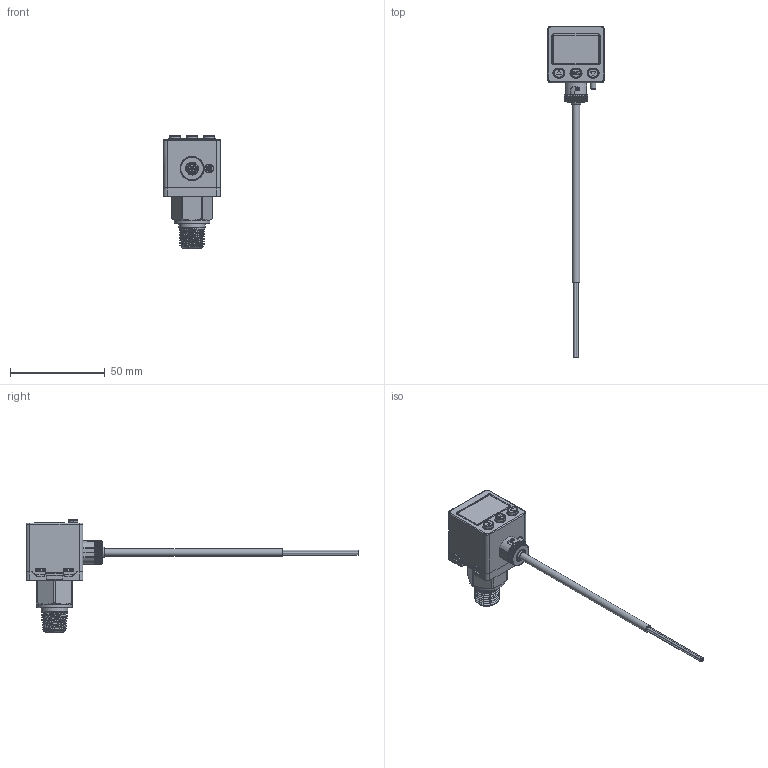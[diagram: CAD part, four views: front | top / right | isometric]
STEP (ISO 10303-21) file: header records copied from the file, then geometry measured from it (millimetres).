
FILE_DESCRIPTION(('STEP AP203'),'1');
FILE_NAME('-F2.stp','2025-06-20T03:02:00',(' '),(' '),'Spatial InterOp 3D',' ',' ');
FILE_SCHEMA(('CONFIG_CONTROL_DESIGN'));
Length unit declared in the file: millimetre
Products named in the file (1): 1
Bounding box: 30.08 x 175.34 x 59.7 mm (x, y, z)
Volume: 35086.8 mm3; surface area: 11198.5 mm2
Topology: 1 solids, 1 shells, 931 faces, 2529 edges, 1642 vertices
Faces by surface type: plane 399, cylinder 264, cone 157, bspline 86, torus 15, extrusion 6, sphere 4
Full cylindrical faces by diameter (mm): 1.85 x2, 3.5 x2, 4 x1, 4.2 x13, 6.2 x1, 14 x1, 18.8 x1
Entity records: 41652 total; most frequent: CARTESIAN_POINT 19990, ORIENTED_EDGE 4834, DIRECTION 4018, EDGE_CURVE 2417, VERTEX_POINT 1582, AXIS2_PLACEMENT_3D 1446, VECTOR 1126, LINE 1120
